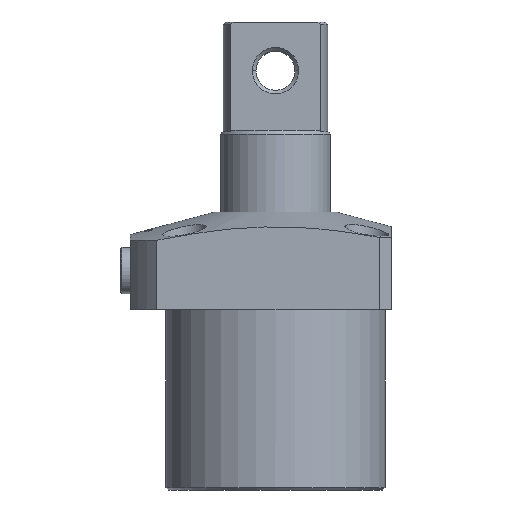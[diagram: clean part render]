
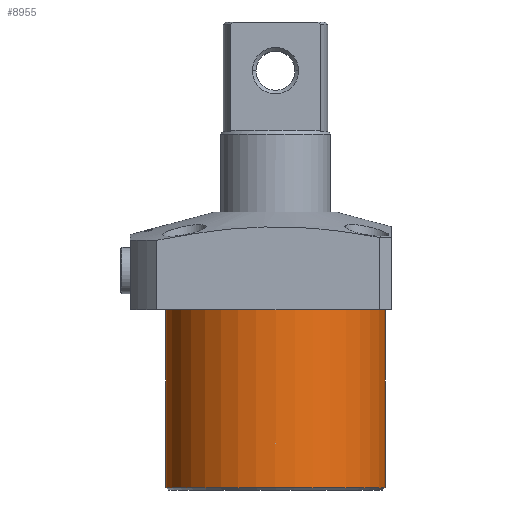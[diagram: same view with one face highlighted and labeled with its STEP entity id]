
A CAD part, front view. The second image highlights one B-rep face of the part: STEP entity #8955.
In plain terms, the highlighted cylindrical face has radius 45 mm (diameter 90 mm), a partial arc.
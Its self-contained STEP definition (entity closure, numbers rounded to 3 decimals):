
#748 = VERTEX_POINT ( 'NONE', #2028 ) ;
#1248 = CIRCLE ( 'NONE', #2318, 45. ) ;
#1480 = DIRECTION ( 'NONE',  ( 0., 0., 1. ) ) ;
#2028 = CARTESIAN_POINT ( 'NONE',  ( -45., 0., -73. ) ) ;
#2095 = EDGE_CURVE ( 'NONE', #748, #3343, #13739, .T. ) ;
#2180 = CIRCLE ( 'NONE', #7111, 45. ) ;
#2318 = AXIS2_PLACEMENT_3D ( 'NONE', #8685, #1480, #9897 ) ;
#2385 = DIRECTION ( 'NONE',  ( 0., 0., 1. ) ) ;
#3343 = VERTEX_POINT ( 'NONE', #9045 ) ;
#3349 = EDGE_CURVE ( 'NONE', #4074, #3343, #2180, .T. ) ;
#3606 = AXIS2_PLACEMENT_3D ( 'NONE', #9567, #15752, #8418 ) ;
#3677 = CARTESIAN_POINT ( 'NONE',  ( 45., 0., -73. ) ) ;
#3796 = ORIENTED_EDGE ( 'NONE', *, *, #2095, .F. ) ;
#3971 = ORIENTED_EDGE ( 'NONE', *, *, #9215, .T. ) ;
#4074 = VERTEX_POINT ( 'NONE', #15723 ) ;
#4318 = CARTESIAN_POINT ( 'NONE',  ( 45., 0., -74. ) ) ;
#4954 = FACE_OUTER_BOUND ( 'NONE', #13188, .T. ) ;
#5440 = CARTESIAN_POINT ( 'NONE',  ( 0., 0., 0. ) ) ;
#5537 = LINE ( 'NONE', #4318, #8391 ) ;
#6690 = DIRECTION ( 'NONE',  ( -1., 0., 0. ) ) ;
#7111 = AXIS2_PLACEMENT_3D ( 'NONE', #5440, #13976, #6690 ) ;
#7645 = VECTOR ( 'NONE', #2385, 1000. ) ;
#8377 = EDGE_CURVE ( 'NONE', #748, #12138, #1248, .T. ) ;
#8391 = VECTOR ( 'NONE', #12820, 1000. ) ;
#8418 = DIRECTION ( 'NONE',  ( 1., 0., 0. ) ) ;
#8685 = CARTESIAN_POINT ( 'NONE',  ( 0., 0., -73. ) ) ;
#8955 = ADVANCED_FACE ( 'NONE', ( #4954 ), #13167, .T. ) ;
#9045 = CARTESIAN_POINT ( 'NONE',  ( -45., 0., 0. ) ) ;
#9200 = ORIENTED_EDGE ( 'NONE', *, *, #8377, .T. ) ;
#9215 = EDGE_CURVE ( 'NONE', #12138, #4074, #5537, .T. ) ;
#9567 = CARTESIAN_POINT ( 'NONE',  ( 0., 0., -74. ) ) ;
#9576 = CARTESIAN_POINT ( 'NONE',  ( -45., 0., -74. ) ) ;
#9897 = DIRECTION ( 'NONE',  ( -1., 0., 0. ) ) ;
#12138 = VERTEX_POINT ( 'NONE', #3677 ) ;
#12820 = DIRECTION ( 'NONE',  ( 0., 0., 1. ) ) ;
#13167 = CYLINDRICAL_SURFACE ( 'NONE', #3606, 45. ) ;
#13188 = EDGE_LOOP ( 'NONE', ( #3796, #9200, #3971, #14252 ) ) ;
#13739 = LINE ( 'NONE', #9576, #7645 ) ;
#13976 = DIRECTION ( 'NONE',  ( 0., 0., -1. ) ) ;
#14252 = ORIENTED_EDGE ( 'NONE', *, *, #3349, .T. ) ;
#15723 = CARTESIAN_POINT ( 'NONE',  ( 45., 0., 0. ) ) ;
#15752 = DIRECTION ( 'NONE',  ( 0., 0., 1. ) ) ;
